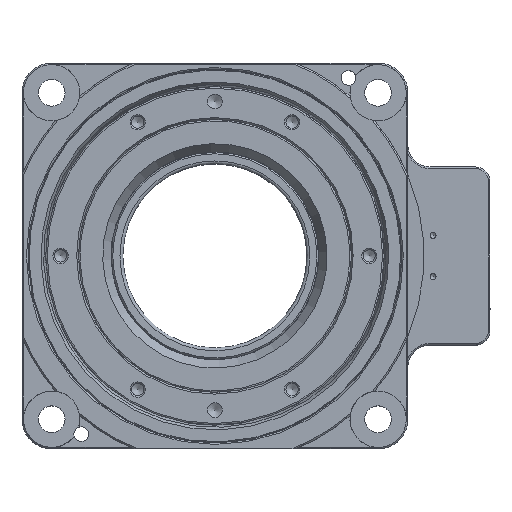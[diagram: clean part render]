
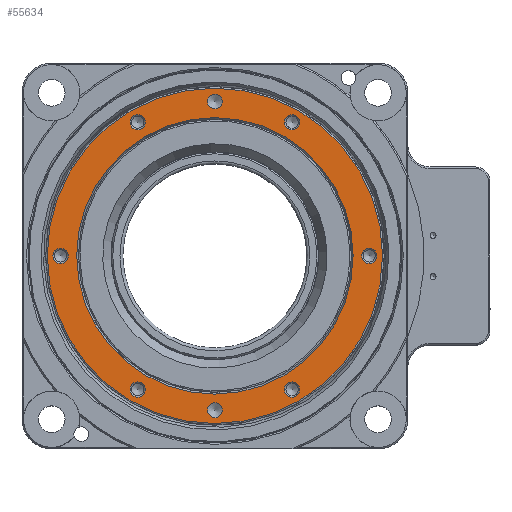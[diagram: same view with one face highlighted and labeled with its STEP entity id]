
A CAD part, top view. The second image highlights one B-rep face of the part: STEP entity #55634.
In plain terms, the highlighted planar face has unit normal (0, 0, 1).
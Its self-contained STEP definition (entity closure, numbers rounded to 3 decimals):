
#53981=CARTESIAN_POINT('',(-52.,2.567,37.));
#53982=VERTEX_POINT('',#53981);
#53983=CARTESIAN_POINT('',(-52.,0.,37.));
#53984=DIRECTION('',(0.0,0.0,1.0));
#53985=DIRECTION('',(0.0,-1.0,0.0));
#53986=AXIS2_PLACEMENT_3D('',#53983,#53984,#53985);
#53987=CIRCLE('',#53986,2.567);
#53988=EDGE_CURVE('',#53982,#53982,#53987,.T.);
#54106=CARTESIAN_POINT('',(-28.223,-43.75,37.));
#54107=VERTEX_POINT('',#54106);
#54108=CARTESIAN_POINT('',(-26.,-45.033,37.));
#54109=DIRECTION('',(0.,0.,1.0));
#54110=DIRECTION('',(0.866,-0.5,0.));
#54111=AXIS2_PLACEMENT_3D('',#54108,#54109,#54110);
#54112=CIRCLE('',#54111,2.567);
#54113=EDGE_CURVE('',#54107,#54107,#54112,.T.);
#54146=CARTESIAN_POINT('',(23.777,-46.317,37.));
#54147=VERTEX_POINT('',#54146);
#54148=CARTESIAN_POINT('',(26.,-45.033,37.));
#54149=DIRECTION('',(0.,0.,1.0));
#54150=DIRECTION('',(0.866,0.5,0.));
#54151=AXIS2_PLACEMENT_3D('',#54148,#54149,#54150);
#54152=CIRCLE('',#54151,2.567);
#54153=EDGE_CURVE('',#54147,#54147,#54152,.T.);
#54186=CARTESIAN_POINT('',(52.,-2.567,37.));
#54187=VERTEX_POINT('',#54186);
#54188=CARTESIAN_POINT('',(52.,0.,37.));
#54189=DIRECTION('',(0.0,0.0,1.0));
#54190=DIRECTION('',(0.0,1.0,0.0));
#54191=AXIS2_PLACEMENT_3D('',#54188,#54189,#54190);
#54192=CIRCLE('',#54191,2.567);
#54193=EDGE_CURVE('',#54187,#54187,#54192,.T.);
#54226=CARTESIAN_POINT('',(28.223,43.75,37.));
#54227=VERTEX_POINT('',#54226);
#54228=CARTESIAN_POINT('',(26.,45.033,37.));
#54229=DIRECTION('',(0.,0.,1.0));
#54230=DIRECTION('',(-0.866,0.5,0.));
#54231=AXIS2_PLACEMENT_3D('',#54228,#54229,#54230);
#54232=CIRCLE('',#54231,2.567);
#54233=EDGE_CURVE('',#54227,#54227,#54232,.T.);
#54266=CARTESIAN_POINT('',(-23.777,46.317,37.));
#54267=VERTEX_POINT('',#54266);
#54268=CARTESIAN_POINT('',(-26.,45.033,37.));
#54269=DIRECTION('',(0.,0.,1.0));
#54270=DIRECTION('',(-0.866,-0.5,0.));
#54271=AXIS2_PLACEMENT_3D('',#54268,#54269,#54270);
#54272=CIRCLE('',#54271,2.567);
#54273=EDGE_CURVE('',#54267,#54267,#54272,.T.);
#54283=CARTESIAN_POINT('',(0.,54.5,37.));
#54284=VERTEX_POINT('',#54283);
#54285=CARTESIAN_POINT('',(0.,52.,37.));
#54286=DIRECTION('',(0.0,0.0,-1.0));
#54287=DIRECTION('',(0.0,1.0,0.0));
#54288=AXIS2_PLACEMENT_3D('',#54285,#54286,#54287);
#54289=CIRCLE('',#54288,2.5);
#54290=EDGE_CURVE('',#54284,#54284,#54289,.T.);
#54320=CARTESIAN_POINT('',(0.,-49.5,37.));
#54321=VERTEX_POINT('',#54320);
#54322=CARTESIAN_POINT('',(0.,-52.,37.));
#54323=DIRECTION('',(0.0,0.0,-1.0));
#54324=DIRECTION('',(0.0,1.0,0.0));
#54325=AXIS2_PLACEMENT_3D('',#54322,#54323,#54324);
#54326=CIRCLE('',#54325,2.5);
#54327=EDGE_CURVE('',#54321,#54321,#54326,.T.);
#54357=CARTESIAN_POINT('',(0.,-46.577,37.));
#54358=VERTEX_POINT('',#54357);
#54359=CARTESIAN_POINT('',(0.,0.,37.));
#54360=DIRECTION('',(0.0,0.0,1.0));
#54361=DIRECTION('',(0.0,1.0,0.0));
#54362=AXIS2_PLACEMENT_3D('',#54359,#54360,#54361);
#54363=CIRCLE('',#54362,46.577);
#54364=EDGE_CURVE('',#54358,#54358,#54363,.T.);
#55591=CARTESIAN_POINT('',(0.,-51.5,37.));
#55592=DIRECTION('',(0.0,0.0,1.0));
#55593=DIRECTION('',(1.0,0.0,0.0));
#55594=AXIS2_PLACEMENT_3D('',#55591,#55592,#55593);
#55595=PLANE('',#55594);
#55596=CARTESIAN_POINT('',(0.,-56.5,37.));
#55597=VERTEX_POINT('',#55596);
#55598=CARTESIAN_POINT('',(0.,0.,37.));
#55599=DIRECTION('',(0.0,0.0,-1.0));
#55600=DIRECTION('',(0.0,1.0,0.0));
#55601=AXIS2_PLACEMENT_3D('',#55598,#55599,#55600);
#55602=CIRCLE('',#55601,56.5);
#55603=EDGE_CURVE('',#55597,#55597,#55602,.T.);
#55604=ORIENTED_EDGE('',*,*,#55603,.F.);
#55605=EDGE_LOOP('',(#55604));
#55606=FACE_OUTER_BOUND('',#55605,.T.);
#55607=ORIENTED_EDGE('',*,*,#54364,.F.);
#55608=EDGE_LOOP('',(#55607));
#55609=FACE_BOUND('',#55608,.T.);
#55610=ORIENTED_EDGE('',*,*,#54327,.T.);
#55611=EDGE_LOOP('',(#55610));
#55612=FACE_BOUND('',#55611,.T.);
#55613=ORIENTED_EDGE('',*,*,#54290,.T.);
#55614=EDGE_LOOP('',(#55613));
#55615=FACE_BOUND('',#55614,.T.);
#55616=ORIENTED_EDGE('',*,*,#54233,.F.);
#55617=EDGE_LOOP('',(#55616));
#55618=FACE_BOUND('',#55617,.T.);
#55619=ORIENTED_EDGE('',*,*,#54153,.F.);
#55620=EDGE_LOOP('',(#55619));
#55621=FACE_BOUND('',#55620,.T.);
#55622=ORIENTED_EDGE('',*,*,#53988,.F.);
#55623=EDGE_LOOP('',(#55622));
#55624=FACE_BOUND('',#55623,.T.);
#55625=ORIENTED_EDGE('',*,*,#54113,.F.);
#55626=EDGE_LOOP('',(#55625));
#55627=FACE_BOUND('',#55626,.T.);
#55628=ORIENTED_EDGE('',*,*,#54193,.F.);
#55629=EDGE_LOOP('',(#55628));
#55630=FACE_BOUND('',#55629,.T.);
#55631=ORIENTED_EDGE('',*,*,#54273,.F.);
#55632=EDGE_LOOP('',(#55631));
#55633=FACE_BOUND('',#55632,.T.);
#55634=ADVANCED_FACE('',(#55606,#55609,#55612,#55615,#55618,#55621,#55624,#55627,#55630,#55633),#55595,.T.);
